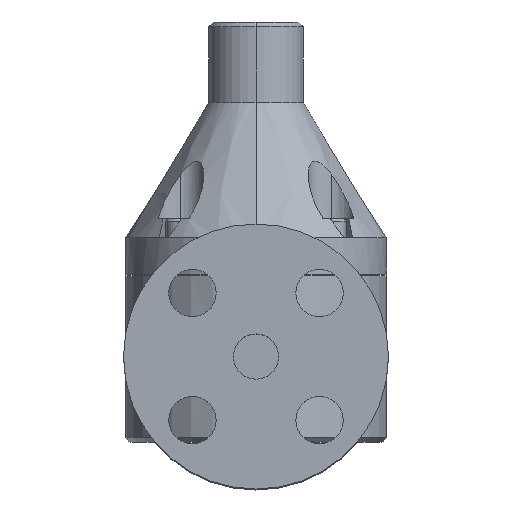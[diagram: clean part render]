
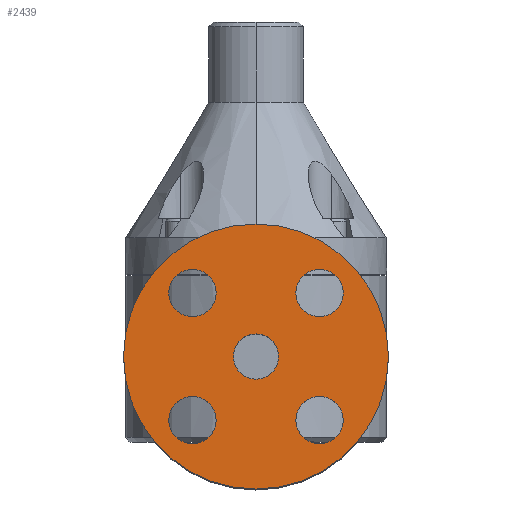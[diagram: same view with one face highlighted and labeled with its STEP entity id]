
A CAD part, top view. The second image highlights one B-rep face of the part: STEP entity #2439.
In plain terms, the highlighted planar face has unit normal (0, 0, 1).
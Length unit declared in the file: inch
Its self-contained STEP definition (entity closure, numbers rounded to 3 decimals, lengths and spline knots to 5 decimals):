
#9 = VERTEX_POINT ( 'NONE', #4035 ) ;
#123 = ORIENTED_EDGE ( 'NONE', *, *, #3316, .F. ) ;
#136 = FACE_BOUND ( 'NONE', #3539, .T. ) ;
#189 = CARTESIAN_POINT ( 'NONE',  ( 0.83969, 0.28531, 3.75 ) ) ;
#368 = AXIS2_PLACEMENT_3D ( 'NONE', #3637, #1196, #4045 ) ;
#417 = CARTESIAN_POINT ( 'NONE',  ( 0.52719, 0.28531, 3.75 ) ) ;
#437 = VERTEX_POINT ( 'NONE', #4156 ) ;
#561 = CIRCLE ( 'NONE', #2040, 0.3125 ) ;
#592 = AXIS2_PLACEMENT_3D ( 'NONE', #2207, #4981, #2611 ) ;
#637 = ORIENTED_EDGE ( 'NONE', *, *, #2477, .T. ) ;
#639 = AXIS2_PLACEMENT_3D ( 'NONE', #3900, #4158, #1751 ) ;
#643 = EDGE_CURVE ( 'NONE', #2401, #2024, #3785, .T. ) ;
#646 = AXIS2_PLACEMENT_3D ( 'NONE', #3380, #1359, #4187 ) ;
#654 = EDGE_CURVE ( 'NONE', #2304, #9, #561, .T. ) ;
#671 = EDGE_CURVE ( 'NONE', #4970, #3114, #4711, .T. ) ;
#673 = DIRECTION ( 'NONE',  ( -1., 0., 0. ) ) ;
#679 = EDGE_CURVE ( 'NONE', #3773, #4488, #1633, .T. ) ;
#717 = EDGE_CURVE ( 'NONE', #1521, #1938, #3517, .T. ) ;
#733 = CARTESIAN_POINT ( 'NONE',  ( 0.83969, 1.96469, 3.75 ) ) ;
#736 = EDGE_CURVE ( 'NONE', #974, #437, #2605, .T. ) ;
#847 = EDGE_CURVE ( 'NONE', #9, #2304, #5133, .T. ) ;
#864 = DIRECTION ( 'NONE',  ( 0., 0., 1. ) ) ;
#956 = CIRCLE ( 'NONE', #3996, 0.3125 ) ;
#974 = VERTEX_POINT ( 'NONE', #4684 ) ;
#1068 = ORIENTED_EDGE ( 'NONE', *, *, #2525, .F. ) ;
#1193 = DIRECTION ( 'NONE',  ( 0., 0., 1. ) ) ;
#1196 = DIRECTION ( 'NONE',  ( 0., 0., 1. ) ) ;
#1199 = DIRECTION ( 'NONE',  ( 0., 0., 1. ) ) ;
#1214 = DIRECTION ( 'NONE',  ( 0., -1., 0. ) ) ;
#1359 = DIRECTION ( 'NONE',  ( 0., 0., 1. ) ) ;
#1412 = FACE_OUTER_BOUND ( 'NONE', #1529, .T. ) ;
#1521 = VERTEX_POINT ( 'NONE', #3151 ) ;
#1529 = EDGE_LOOP ( 'NONE', ( #637, #5252 ) ) ;
#1595 = CARTESIAN_POINT ( 'NONE',  ( -0.83969, 0.28531, 3.75 ) ) ;
#1612 = EDGE_LOOP ( 'NONE', ( #2307, #1068 ) ) ;
#1631 = CARTESIAN_POINT ( 'NONE',  ( -0.83969, 1.96469, 3.75 ) ) ;
#1633 = CIRCLE ( 'NONE', #2004, 0.3125 ) ;
#1683 = CARTESIAN_POINT ( 'NONE',  ( 1.15219, 1.96469, 3.75 ) ) ;
#1751 = DIRECTION ( 'NONE',  ( 1., 0., 0. ) ) ;
#1823 = AXIS2_PLACEMENT_3D ( 'NONE', #5019, #2647, #5412 ) ;
#1829 = EDGE_LOOP ( 'NONE', ( #2512, #4298 ) ) ;
#1866 = CARTESIAN_POINT ( 'NONE',  ( -0.83969, 1.96469, 3.75 ) ) ;
#1937 = AXIS2_PLACEMENT_3D ( 'NONE', #3358, #864, #3760 ) ;
#1938 = VERTEX_POINT ( 'NONE', #3837 ) ;
#1944 = ORIENTED_EDGE ( 'NONE', *, *, #5290, .F. ) ;
#1968 = AXIS2_PLACEMENT_3D ( 'NONE', #1631, #4438, #2059 ) ;
#2004 = AXIS2_PLACEMENT_3D ( 'NONE', #1595, #4405, #2021 ) ;
#2015 = AXIS2_PLACEMENT_3D ( 'NONE', #189, #3198, #673 ) ;
#2021 = DIRECTION ( 'NONE',  ( 0., 1., 0. ) ) ;
#2024 = VERTEX_POINT ( 'NONE', #3081 ) ;
#2040 = AXIS2_PLACEMENT_3D ( 'NONE', #733, #3658, #1214 ) ;
#2059 = DIRECTION ( 'NONE',  ( 1., 0., 0. ) ) ;
#2074 = AXIS2_PLACEMENT_3D ( 'NONE', #3634, #1193, #4042 ) ;
#2108 = CARTESIAN_POINT ( 'NONE',  ( 1.15219, 0.28531, 3.75 ) ) ;
#2207 = CARTESIAN_POINT ( 'NONE',  ( 0., 1.125, 3.75 ) ) ;
#2280 = DIRECTION ( 'NONE',  ( 1., 0., 0. ) ) ;
#2304 = VERTEX_POINT ( 'NONE', #1683 ) ;
#2307 = ORIENTED_EDGE ( 'NONE', *, *, #643, .F. ) ;
#2359 = EDGE_LOOP ( 'NONE', ( #3701, #2792 ) ) ;
#2401 = VERTEX_POINT ( 'NONE', #4149 ) ;
#2439 = ADVANCED_FACE ( 'NONE', ( #4629, #2507, #2634, #136, #4499, #1412 ), #3783, .T. ) ;
#2477 = EDGE_CURVE ( 'NONE', #437, #974, #4367, .T. ) ;
#2507 = FACE_BOUND ( 'NONE', #2622, .T. ) ;
#2512 = ORIENTED_EDGE ( 'NONE', *, *, #679, .F. ) ;
#2525 = EDGE_CURVE ( 'NONE', #2024, #2401, #3059, .T. ) ;
#2605 = CIRCLE ( 'NONE', #1937, 1.75 ) ;
#2611 = DIRECTION ( 'NONE',  ( 1., 0., 0. ) ) ;
#2622 = EDGE_LOOP ( 'NONE', ( #2696, #1944 ) ) ;
#2634 = FACE_BOUND ( 'NONE', #1829, .T. ) ;
#2647 = DIRECTION ( 'NONE',  ( 0., 0., 1. ) ) ;
#2652 = CIRCLE ( 'NONE', #368, 0.3125 ) ;
#2696 = ORIENTED_EDGE ( 'NONE', *, *, #671, .F. ) ;
#2792 = ORIENTED_EDGE ( 'NONE', *, *, #847, .F. ) ;
#3059 = CIRCLE ( 'NONE', #592, 0.299 ) ;
#3081 = CARTESIAN_POINT ( 'NONE',  ( -0.299, 1.125, 3.75 ) ) ;
#3114 = VERTEX_POINT ( 'NONE', #417 ) ;
#3151 = CARTESIAN_POINT ( 'NONE',  ( -0.52719, 1.96469, 3.75 ) ) ;
#3163 = CIRCLE ( 'NONE', #4813, 0.3125 ) ;
#3198 = DIRECTION ( 'NONE',  ( 0., 0., 1. ) ) ;
#3316 = EDGE_CURVE ( 'NONE', #1938, #1521, #3163, .T. ) ;
#3358 = CARTESIAN_POINT ( 'NONE',  ( 0., 1.125, 3.75 ) ) ;
#3367 = CARTESIAN_POINT ( 'NONE',  ( -1.15219, 0.28531, 3.75 ) ) ;
#3380 = CARTESIAN_POINT ( 'NONE',  ( 0., 1.125, 3.75 ) ) ;
#3517 = CIRCLE ( 'NONE', #1968, 0.3125 ) ;
#3539 = EDGE_LOOP ( 'NONE', ( #4011, #123 ) ) ;
#3634 = CARTESIAN_POINT ( 'NONE',  ( 0., 1.125, 3.75 ) ) ;
#3637 = CARTESIAN_POINT ( 'NONE',  ( 0.83969, 0.28531, 3.75 ) ) ;
#3642 = CARTESIAN_POINT ( 'NONE',  ( -0.83969, 0.28531, 3.75 ) ) ;
#3658 = DIRECTION ( 'NONE',  ( 0., 0., 1. ) ) ;
#3701 = ORIENTED_EDGE ( 'NONE', *, *, #654, .F. ) ;
#3760 = DIRECTION ( 'NONE',  ( 1., 0., 0. ) ) ;
#3773 = VERTEX_POINT ( 'NONE', #4353 ) ;
#3783 = PLANE ( 'NONE',  #646 ) ;
#3785 = CIRCLE ( 'NONE', #2074, 0.299 ) ;
#3837 = CARTESIAN_POINT ( 'NONE',  ( -1.15219, 1.96469, 3.75 ) ) ;
#3900 = CARTESIAN_POINT ( 'NONE',  ( 0., 1.125, 3.75 ) ) ;
#3996 = AXIS2_PLACEMENT_3D ( 'NONE', #3642, #1199, #4047 ) ;
#4011 = ORIENTED_EDGE ( 'NONE', *, *, #717, .F. ) ;
#4035 = CARTESIAN_POINT ( 'NONE',  ( 0.52719, 1.96469, 3.75 ) ) ;
#4042 = DIRECTION ( 'NONE',  ( 1., 0., 0. ) ) ;
#4045 = DIRECTION ( 'NONE',  ( -1., 0., 0. ) ) ;
#4047 = DIRECTION ( 'NONE',  ( 0., 1., 0. ) ) ;
#4149 = CARTESIAN_POINT ( 'NONE',  ( 0.299, 1.125, 3.75 ) ) ;
#4156 = CARTESIAN_POINT ( 'NONE',  ( 1.75, 1.125, 3.75 ) ) ;
#4158 = DIRECTION ( 'NONE',  ( 0., 0., 1. ) ) ;
#4187 = DIRECTION ( 'NONE',  ( 1., 0., 0. ) ) ;
#4298 = ORIENTED_EDGE ( 'NONE', *, *, #4345, .F. ) ;
#4345 = EDGE_CURVE ( 'NONE', #4488, #3773, #956, .T. ) ;
#4353 = CARTESIAN_POINT ( 'NONE',  ( -0.52719, 0.28531, 3.75 ) ) ;
#4367 = CIRCLE ( 'NONE', #639, 1.75 ) ;
#4405 = DIRECTION ( 'NONE',  ( 0., 0., 1. ) ) ;
#4438 = DIRECTION ( 'NONE',  ( 0., 0., 1. ) ) ;
#4488 = VERTEX_POINT ( 'NONE', #3367 ) ;
#4499 = FACE_BOUND ( 'NONE', #1612, .T. ) ;
#4629 = FACE_BOUND ( 'NONE', #2359, .T. ) ;
#4664 = DIRECTION ( 'NONE',  ( 0., 0., 1. ) ) ;
#4684 = CARTESIAN_POINT ( 'NONE',  ( -1.75, 1.125, 3.75 ) ) ;
#4711 = CIRCLE ( 'NONE', #2015, 0.3125 ) ;
#4813 = AXIS2_PLACEMENT_3D ( 'NONE', #1866, #4664, #2280 ) ;
#4970 = VERTEX_POINT ( 'NONE', #2108 ) ;
#4981 = DIRECTION ( 'NONE',  ( 0., 0., 1. ) ) ;
#5019 = CARTESIAN_POINT ( 'NONE',  ( 0.83969, 1.96469, 3.75 ) ) ;
#5133 = CIRCLE ( 'NONE', #1823, 0.3125 ) ;
#5252 = ORIENTED_EDGE ( 'NONE', *, *, #736, .T. ) ;
#5290 = EDGE_CURVE ( 'NONE', #3114, #4970, #2652, .T. ) ;
#5412 = DIRECTION ( 'NONE',  ( 0., -1., 0. ) ) ;
